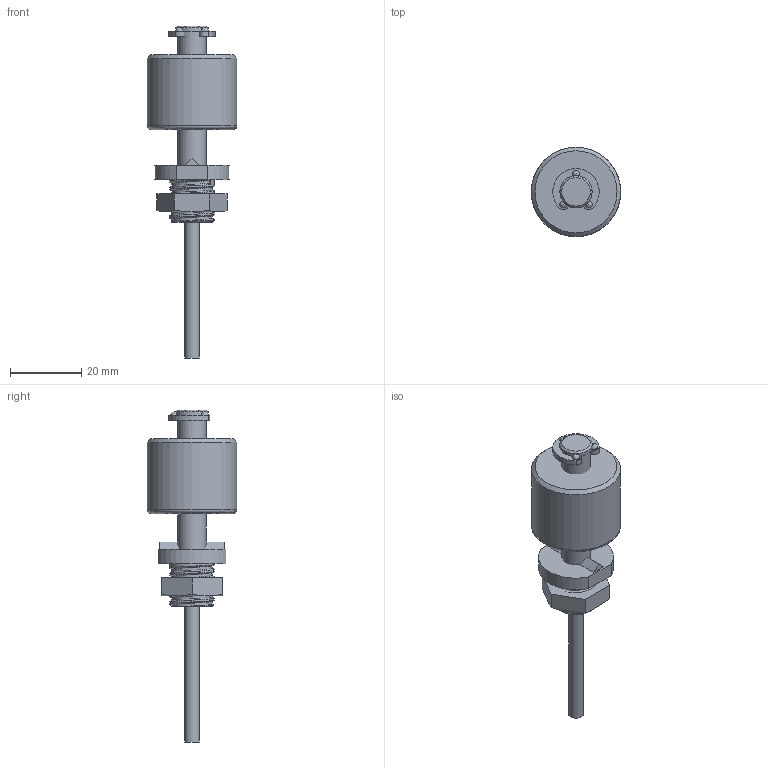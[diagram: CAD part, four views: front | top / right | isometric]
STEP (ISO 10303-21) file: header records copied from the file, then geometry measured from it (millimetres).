
FILE_DESCRIPTION(/* description */ ('Katalogmodell Elobau'),/* implementation_level */ '2;1');
FILE_NAME(/* name */ '2000_0_A.stp',/* time_stamp */ '2014-10-08T10:29:06+02:00',/* author */ ('Elobau GmbH & Co. KG'),/* organization */ ('Elobau GmbH & Co. KG'),/* preprocessor_version */ 'ST-DEVELOPER v15',/* originating_system */ 'SIEMENS PLM Software NX 8.5',/* authorisation */ '');
FILE_SCHEMA (('AUTOMOTIVE_DESIGN { 1 0 10303 214 3 1 1 1 }'));
Length unit declared in the file: millimetre
Products named in the file (1): 2000.0_A
Bounding box: 25.11 x 25.11 x 93 mm (x, y, z)
Volume: 16792.5 mm3; surface area: 6508.2 mm2
Topology: 3 solids, 3 shells, 64 faces, 154 edges, 99 vertices
Faces by surface type: plane 33, cylinder 14, cone 9, bspline 4, sphere 4
Full cylindrical faces by diameter (mm): 4.1 x1, 4.982 x1, 8 x1, 9 x1, 25 x1
Entity records: 3807 total; most frequent: CARTESIAN_POINT 2347, DIRECTION 281, ORIENTED_EDGE 266, EDGE_CURVE 133, AXIS2_PLACEMENT_3D 115, VERTEX_POINT 91, EDGE_LOOP 79, ADVANCED_FACE 64
